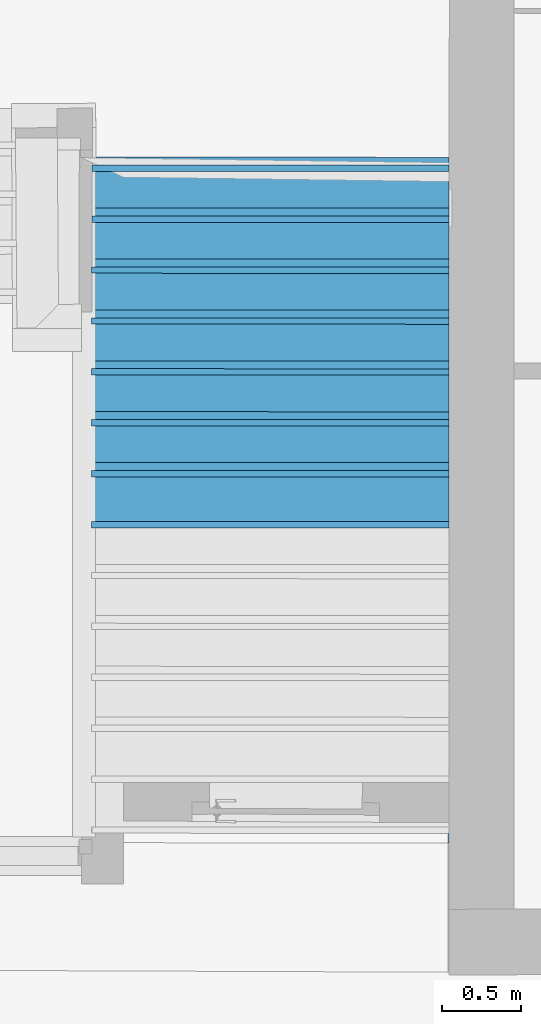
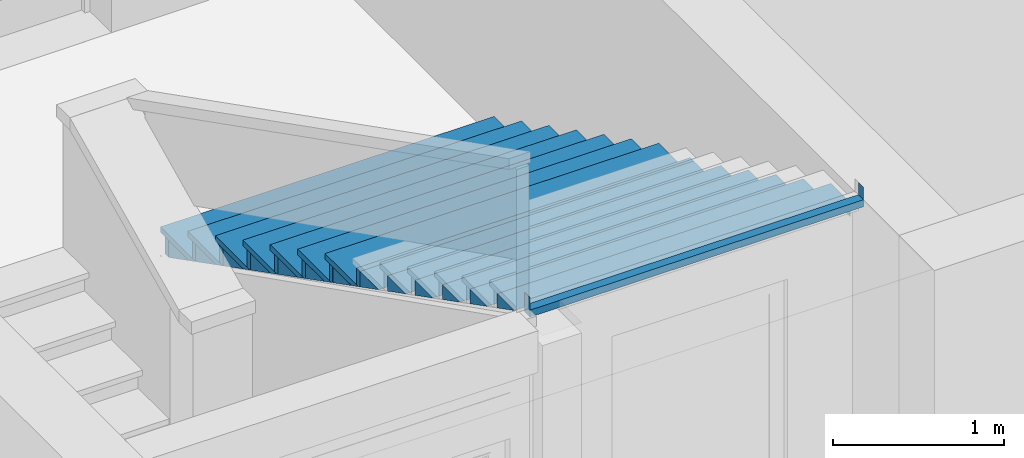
# One storey, part 136 of 196: 16 building element parts, 1 element without a shape of its own.
"""IFC2X3 building model written with IfcOpenShell, lengths in metres."""

from ifc_helpers import new_model, entity, si_unit, converted_unit, derived_unit, money_unit, direction, frame, origin_with_axes, place, context, subcontext, project, spatial, faceted_brep, material, element, aggregate, save


model = new_model("IFC2X3")

# Units and contexts
model_context = context("Model", 3, precision=1e-05, world=origin_with_axes(), true_north=direction((0.0, 1.0)))
body_context = subcontext(model_context, "Body", "Model", "MODEL_VIEW")
ifc_project = project(units=[si_unit("LENGTHUNIT", "METRE"), si_unit("AREAUNIT", "SQUARE_METRE"), si_unit("VOLUMEUNIT", "CUBIC_METRE"), converted_unit("PLANEANGLEUNIT", "DEGREE", entity("IfcPlaneAngleMeasure", 0.0174532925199), si_unit("PLANEANGLEUNIT", "RADIAN"), dimensions=[0, 0, 0, 0, 0, 0, 0]), money_unit("EUR"), converted_unit("TIMEUNIT", "Year", entity("IfcTimeMeasure", 31556926.0), si_unit("TIMEUNIT", "SECOND"), dimensions=[0, 0, 1, 0, 0, 0, 0]), si_unit("MASSUNIT", "GRAM", prefix="KILO"), si_unit("THERMODYNAMICTEMPERATUREUNIT", "DEGREE_CELSIUS"), si_unit("LUMINOUSINTENSITYUNIT", "LUMEN"), si_unit("ENERGYUNIT", "JOULE", prefix="MEGA"), derived_unit("THERMALCONDUCTANCEUNIT", [(si_unit("POWERUNIT", "WATT"), 1), (si_unit("LENGTHUNIT", "METRE"), -1), (si_unit("THERMODYNAMICTEMPERATUREUNIT", "KELVIN"), -1)]), derived_unit("SPECIFICHEATCAPACITYUNIT", [(si_unit("ENERGYUNIT", "JOULE"), 1), (si_unit("MASSUNIT", "GRAM", prefix="KILO"), -1), (si_unit("THERMODYNAMICTEMPERATUREUNIT", "KELVIN"), -1)]), derived_unit("MASSDENSITYUNIT", [(si_unit("MASSUNIT", "GRAM", prefix="KILO"), 1), (si_unit("VOLUMEUNIT", "CUBIC_METRE"), -1)])], contexts=[model_context])

# Site, building, storey
site_placement = place(None, origin_with_axes())
site = spatial("IfcSite", under=ifc_project, at=site_placement, Name="Gelände", CompositionType="ELEMENT")
building_placement = place(site_placement, origin_with_axes())
building = spatial("IfcBuilding", under=site, at=building_placement, Name="Gebäude", CompositionType="ELEMENT")
storey_placement = place(building_placement, frame((0.0, 0.0, -3.0), z_axis=(0.0, 0.0, 1.0), x_axis=(1.0, 0.0, 0.0)))
storey = spatial("IfcBuildingStorey", under=building, at=storey_placement, Name="KELLERGESCHOSS", CompositionType="ELEMENT", Elevation=-3.0)

# Stair, building element parts
stair_placement = place(storey_placement, frame((-4.87307705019, 23.804592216, 0.6), z_axis=(0.0, 0.0, 1.0), x_axis=(-0.999999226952, 0.00124342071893, 0.0)))
stair = element("IfcStair", 1, at=stair_placement, inside=storey, Name="Treppe-003", ShapeType="NOTDEFINED")
ifc_material = material(Name="05_ALLGEMEIN - TRAGENDE BAUTEILE")
building_element_part_1_placement = place(stair_placement, origin_with_axes())
building_element_part_1 = element("IfcBuildingElementPart", 2, at=building_element_part_1_placement, material=ifc_material, Name="05_ALLGEMEIN - TRAGENDE BAUTEILE", context=body_context, shape_type="Brep", body=[
    faceted_brep([(2.24908700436, 3.66726069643, 2.19), (-0.00267677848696, 3.66530980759, 2.19), (-0.00267677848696, 3.66530980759, 2.28), (-0.00294924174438, 3.66530957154, 2.28), (-0.00294924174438, 3.66530957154, 2.14), (2.25204991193, 3.66726326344, 2.14), (2.25204991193, 3.66726326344, 2.28), (2.24908700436, 3.66726069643, 2.28), (2.24905300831, 3.70645155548, 2.19), (2.24907701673, 3.7064515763, 2.19), (2.24905894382, 3.72726069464, 2.19), (-0.00272492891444, 3.7253097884, 2.19), (-0.00272492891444, 3.7253097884, 2.28), (-0.00300122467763, 3.72530954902, 2.28), (-0.00300122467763, 3.72530954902, 2.14), (2.251997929, 3.72726324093, 2.14), (2.251997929, 3.72726324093, 2.28), (2.24905300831, 3.70645155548, 2.28), (2.24905894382, 3.72726069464, 2.28), (2.24907701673, 3.7064515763, 2.28)], [[[0, 1, 2, 3, 4, 5, 6, 7]], [[1, 0, 8, 9, 10, 11]], [[12, 2, 1, 11]], [[2, 12, 13, 3]], [[13, 14, 4, 3]], [[14, 15, 5, 4]], [[6, 5, 15, 16]], [[17, 7, 6, 16, 18, 19]], [[0, 7, 17, 8]], [[17, 19, 9, 8]], [[19, 18, 10, 9]], [[10, 18, 16, 15, 14, 13, 12, 11]]]),
    faceted_brep([(2.25248234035, 3.22770759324, 1.91428592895), (2.2526553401, 3.02486921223, 1.81023216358), (0.00283874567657, 3.02292001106, 1.79839487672), (0.00265744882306, 3.24883301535, 1.91428571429), (2.25260647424, 3.02486917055, 1.91428571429), (0.00283874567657, 3.02292001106, 1.75142857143), (-0.00239268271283, 3.02291547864, 1.91428571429), (-0.00239268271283, 3.02291547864, 1.75142857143), (0.00265320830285, 3.25411710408, 1.85744089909), (0.00258876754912, 3.33441637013, 1.8981551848), (0.00252432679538, 3.41471563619, 1.93886947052), (0.00245988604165, 3.49501490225, 1.97958375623), (0.0024592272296, 3.49583584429, 1.98), (0.00239544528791, 3.5753141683, 1.98), (0.00239544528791, 3.5753141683, 2.07714285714), (0.00240267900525, 3.56630027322, 2.07714285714), (0.00258098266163, 3.34411707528, 1.96316536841), (0.00258098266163, 3.34411707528, 1.91428571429), (0.00291221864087, 2.93136575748, 1.75142857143), (0.00309650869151, 2.70172294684, 1.63362438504), (0.00309650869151, 2.70172294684, 1.58857142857), (0.00316698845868, 2.61389849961, 1.58857142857), (0.00335427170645, 2.38052588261, 1.46885389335), (0.00335427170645, 2.38052588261, 1.42571428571), (0.00342175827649, 2.29643124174, 1.42571428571), (0.0036120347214, 2.05932881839, 1.30408340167), (0.0036120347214, 2.05932881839, 1.26285714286), (0.00367652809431, 1.97896398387, 1.26285714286), (0.00386979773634, 1.73813175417, 1.13931290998), (0.00386979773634, 1.73813175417, 1.1), (0.00393129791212, 1.661496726, 1.1), (0.00412756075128, 1.41693468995, 0.974542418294), (0.00412756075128, 1.41693468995, 0.937142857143), (0.00418606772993, 1.34402946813, 0.937142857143), (0.00438532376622, 1.09573762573, 0.809771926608), (0.00438532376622, 1.09573762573, 0.774285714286), (0.00444083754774, 1.02656221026, 0.774285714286), (0.00464308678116, 0.774540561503, 0.645001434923), (0.00464308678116, 0.774540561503, 0.611428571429), (0.00469560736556, 0.709094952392, 0.611428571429), (0.0049008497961, 0.453343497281, 0.480230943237), (0.0049008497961, 0.453343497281, 0.448571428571), (0.00495037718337, 0.391627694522, 0.448571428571), (0.00515861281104, 0.132146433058, 0.315460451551), (0.00515861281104, 0.132146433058, 0.285714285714), (0.00520514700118, 0.0741604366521, 0.285714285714), (0.00541637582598, -0.189050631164, 0.150689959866), (0.00541637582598, -0.189050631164, 0.122857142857), (0.00545991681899, -0.243306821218, 0.122857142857), (0.0056601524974, -0.492819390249, -0.00514000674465), (0.00562305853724, -0.446596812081, -0.00514000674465), (0.00562305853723, -0.446596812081, -0.0189389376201), (0.00561748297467, -0.439649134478, -0.0154162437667), (0.00555304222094, -0.359349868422, 0.0252980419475), (0.0054886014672, -0.279050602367, 0.0660123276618), (0.00542416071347, -0.198751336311, 0.106726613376), (0.00535971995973, -0.118452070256, 0.14744089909), (0.005295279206, -0.0381528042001, 0.188155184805), (0.00523083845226, 0.0421464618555, 0.228869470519), (0.00516639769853, 0.122445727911, 0.269583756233), (0.00510195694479, 0.202744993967, 0.310298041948), (0.00503751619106, 0.283044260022, 0.351012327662), (0.00497307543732, 0.363343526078, 0.391726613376), (0.00490863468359, 0.443642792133, 0.43244089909), (0.00484419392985, 0.523942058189, 0.473155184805), (0.00477975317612, 0.604241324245, 0.513869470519), (0.00471531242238, 0.6845405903, 0.554583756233), (0.00465087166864, 0.764839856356, 0.595298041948), (0.00458643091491, 0.845139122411, 0.636012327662), (0.00452199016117, 0.925438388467, 0.676726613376), (0.00445754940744, 1.00573765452, 0.71744089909), (0.0043931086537, 1.08603692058, 0.758155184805), (0.00432866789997, 1.16633618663, 0.798869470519), (0.00426422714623, 1.24663545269, 0.839583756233), (0.0041997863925, 1.32693471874, 0.880298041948), (0.00413534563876, 1.4072339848, 0.921012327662), (0.00407090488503, 1.48753325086, 0.961726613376), (0.00400646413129, 1.56783251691, 1.00244089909), (0.00394202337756, 1.64813178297, 1.0431551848), (0.00387758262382, 1.72843104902, 1.08386947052), (0.00381314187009, 1.80873031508, 1.12458375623), (0.00374870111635, 1.88902958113, 1.16529804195), (0.00368426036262, 1.96932884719, 1.20601232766), (0.00361981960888, 2.04962811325, 1.24672661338), (0.00355537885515, 2.1299273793, 1.28744089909), (0.00349093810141, 2.21022664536, 1.3281551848), (0.00342649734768, 2.29052591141, 1.36886947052), (0.00336205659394, 2.37082517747, 1.40958375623), (0.0032976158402, 2.45112444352, 1.45029804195), (0.00323317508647, 2.53142370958, 1.49101232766), (0.00316873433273, 2.61172297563, 1.53172661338), (0.003104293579, 2.69202224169, 1.57244089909), (0.00303985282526, 2.77232150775, 1.6131551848), (0.00297541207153, 2.8526207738, 1.65386947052), (0.00291097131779, 2.93292003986, 1.69458375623), (0.00284653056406, 3.01321930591, 1.73529804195), (0.00278208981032, 3.09351857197, 1.77601232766), (0.00271764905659, 3.17381783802, 1.81672661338), (-0.00267096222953, 3.34411252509, 1.91428571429), (-0.00217556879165, 2.7723169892, 1.6131551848), (-0.00210599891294, 2.69201772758, 1.57244089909), (-0.00203644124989, 2.61171846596, 1.53172661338), (-0.00196687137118, 2.53141920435, 1.49101232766), (-0.00189730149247, 2.45111994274, 1.45029804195), (-0.00182773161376, 2.37082068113, 1.40958375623), (-0.00175816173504, 2.29052141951, 1.36886947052), (-0.00168857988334, 2.21022215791, 1.3281551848), (-0.00161901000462, 2.1299228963, 1.28744089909), (-0.00154944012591, 2.04962363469, 1.24672661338), (-0.00147988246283, 1.96932437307, 1.20601232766), (-0.00141031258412, 1.88902511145, 1.16529804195), (-0.00134074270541, 1.80872584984, 1.12458375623), (-0.00127117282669, 1.72842658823, 1.08386947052), (-0.00120160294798, 1.64812732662, 1.0431551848), (-0.00113202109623, 1.56782806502, 1.00244089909), (-0.00106245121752, 1.48752880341, 0.961726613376), (-0.000992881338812, 1.40722954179, 0.921012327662), (-0.00092332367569, 1.32693028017, 0.880298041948), (-0.000853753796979, 1.24663101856, 0.839583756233), (-0.000784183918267, 1.16633175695, 0.798869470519), (-0.000714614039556, 1.08603249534, 0.758155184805), (-0.000645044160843, 1.00573323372, 0.71744089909), (-0.000575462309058, 0.925433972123, 0.676726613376), (-0.000505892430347, 0.845134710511, 0.636012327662), (-0.000436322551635, 0.7648354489, 0.595298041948), (-0.000366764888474, 0.684536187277, 0.554583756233), (-0.000297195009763, 0.604236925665, 0.513869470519), (-0.000227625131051, 0.523937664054, 0.473155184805), (-0.000158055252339, 0.443638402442, 0.43244089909), (-8.84853736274e-05, 0.36333914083, 0.391726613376), (-1.8903521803e-05, 0.283039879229, 0.351012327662), (5.06663569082e-05, 0.202740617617, 0.310298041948), (0.000120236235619, 0.122441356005, 0.269583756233), (0.000189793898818, 0.0421420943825, 0.228869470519), (0.000259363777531, -0.0381571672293, 0.188155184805), (0.000328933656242, -0.118456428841, 0.14744089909), (0.000398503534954, -0.198755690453, 0.106726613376), (0.000468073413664, -0.279054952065, 0.0660123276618), (0.000537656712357, -0.359354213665, 0.0252980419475), (0.000607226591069, -0.439653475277, -0.0154162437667), (0.000623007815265, -0.446535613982, -0.0189057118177), (0.000623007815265, -0.446535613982, -0.00514000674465), (0.000668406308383, -0.510252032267, -0.00514000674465), (0.00066838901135, -0.510252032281, 0.122857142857), (0.000390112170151, -0.189054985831, 0.122857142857), (0.000390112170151, -0.189054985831, 0.285714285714), (0.000111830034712, 0.132142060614, 0.285714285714), (0.000111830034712, 0.132142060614, 0.448571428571), (-0.000166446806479, 0.453339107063, 0.448571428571), (-0.000166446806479, 0.453339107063, 0.611428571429), (-0.000444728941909, 0.774536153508, 0.611428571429), (-0.000444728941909, 0.774536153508, 0.774285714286), (-0.000723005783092, 1.09573319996, 0.774285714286), (-0.000723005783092, 1.09573319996, 0.937142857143), (-0.00100128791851, 1.4169302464, 0.937142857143), (-0.00100128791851, 1.4169302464, 1.1), (-0.00127956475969, 1.73812729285, 1.1), (-0.00127956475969, 1.73812729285, 1.26285714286), (-0.0015578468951, 2.0593243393, 1.26285714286), (-0.0015578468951, 2.0593243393, 1.42571428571), (-0.00183612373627, 2.38052138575, 1.42571428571), (-0.00183612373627, 2.38052138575, 1.58857142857), (-0.00211440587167, 2.70171843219, 1.58857142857), (-0.00211440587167, 2.70171843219, 1.75142857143), (-0.00267096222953, 3.34411252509, 2.07714285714), (-0.00287126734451, 3.57530960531, 2.07714285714), (-0.00287126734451, 3.57530960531, 1.98), (-0.00280240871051, 3.4958312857, 1.98), (-0.0028016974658, 3.4950103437, 1.97958375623), (-0.00273212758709, 3.41471108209, 1.93886947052), (-0.00266255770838, 3.33441182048, 1.8981551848), (-0.00259300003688, 3.25411255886, 1.85744089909), (-0.00252343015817, 3.17381329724, 1.81672661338), (-0.00245386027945, 3.09351403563, 1.77601232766), (-0.00238429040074, 3.01321477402, 1.73529804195), (-0.00231472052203, 2.93291551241, 1.69458375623), (-0.00224513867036, 2.85261625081, 1.65386947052), (2.25288475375, 2.7036721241, 1.75142857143), (2.25275310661, 2.91024015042, 1.75142876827), (2.25232819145, 3.346066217, 2.07714285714), (2.25221157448, 3.54517457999, 2.07714285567), (2.25238139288, 3.34606626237, 1.97500257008), (2.25292928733, 2.70367216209, 1.64546175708), (2.25316303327, 2.38247507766, 1.58857142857), (2.25302387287, 2.59277270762, 1.5885716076), (2.25320323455, 2.38247511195, 1.48069135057), (2.25344131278, 2.06127803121, 1.42571428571), (2.25329463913, 2.27530526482, 1.42571444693), (2.25347718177, 2.0612780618, 1.31592094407), (2.2537195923, 1.74008098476, 1.26285714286), (2.25356540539, 1.95783782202, 1.26285728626), (2.25375112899, 1.74008101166, 1.15115053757), (2.25399787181, 1.41888393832, 1.1), (2.25383617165, 1.64037037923, 1.10000012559), (2.25402507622, 1.41888396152, 0.986380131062), (2.25427615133, 1.09768689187, 0.937142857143), (2.25410693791, 1.32290293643, 0.937142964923), (2.25429902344, 1.09768691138, 0.821609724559), (2.25455443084, 0.776489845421, 0.774285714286), (2.25437770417, 1.00543549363, 0.774285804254), (2.25457297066, 0.776489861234, 0.656839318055), (2.25483271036, 0.455292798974, 0.611428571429), (2.25464847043, 0.687968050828, 0.611428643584), (2.25484691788, 0.455292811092, 0.492068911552), (2.25511098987, 0.134095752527, 0.448571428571), (2.25491923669, 0.370500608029, 0.448571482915), (2.25512086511, 0.13409576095, 0.327298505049), (2.25538926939, -0.18710129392, 0.285714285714), (2.25519000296, 0.0530331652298, 0.285714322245), (2.25539481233, -0.187101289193, 0.162528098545), (2.2556675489, -0.508298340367, 0.122857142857), (2.25546076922, -0.264434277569, 0.122857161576), (2.25293136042, -0.50830071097, -0.00225671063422), (2.25293191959, -0.507574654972, -0.00188424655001), (1.6560773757, -0.508316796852, -0.00514000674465), (2.25566875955, -0.508298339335, -0.00224230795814), (0.327255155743, -0.509969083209, -0.00514000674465), (0.327255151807, -0.509969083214, 0.0), (2.25293135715, -0.508300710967, 0.0), (2.25293191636, -0.507574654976, 0.0)], [[[0, 1, 2, 3]], [[0, 4, 1]], [[5, 2, 1, 4, 6, 7]], [[8, 9, 10, 11, 12, 13, 14, 15, 16, 17, 3, 2, 5, 18, 19, 20, 21, 22, 23, 24, 25, 26, 27, 28, 29, 30, 31, 32, 33, 34, 35, 36, 37, 38, 39, 40, 41, 42, 43, 44, 45, 46, 47, 48, 49, 50, 51, 52, 53, 54, 55, 56, 57, 58, 59, 60, 61, 62, 63, 64, 65, 66, 67, 68, 69, 70, 71, 72, 73, 74, 75, 76, 77, 78, 79, 80, 81, 82, 83, 84, 85, 86, 87, 88, 89, 90, 91, 92, 93, 94, 95, 96, 97]], [[4, 0, 3, 17, 98, 6]], [[99, 100, 101, 102, 103, 104, 105, 106, 107, 108, 109, 110, 111, 112, 113, 114, 115, 116, 117, 118, 119, 120, 121, 122, 123, 124, 125, 126, 127, 128, 129, 130, 131, 132, 133, 134, 135, 136, 137, 138, 139, 140, 141, 142, 143, 144, 145, 146, 147, 148, 149, 150, 151, 152, 153, 154, 155, 156, 157, 158, 159, 160, 161, 162, 163, 7, 6, 98, 164, 165, 166, 167, 168, 169, 170, 171, 172, 173, 174, 175, 176]], [[177, 178, 18, 5, 7, 163]], [[9, 8, 171, 170]], [[10, 9, 170, 169]], [[11, 10, 169, 168]], [[12, 11, 168, 167]], [[13, 12, 167, 166]], [[14, 13, 166, 165]], [[179, 180, 15, 14, 165, 164]], [[180, 181, 16, 15]], [[16, 181, 179, 164, 98, 17]], [[178, 182, 19, 18]], [[182, 177, 163, 162, 20, 19]], [[183, 184, 21, 20, 162, 161]], [[184, 185, 22, 21]], [[185, 183, 161, 160, 23, 22]], [[186, 187, 24, 23, 160, 159]], [[187, 188, 25, 24]], [[188, 186, 159, 158, 26, 25]], [[189, 190, 27, 26, 158, 157]], [[190, 191, 28, 27]], [[191, 189, 157, 156, 29, 28]], [[192, 193, 30, 29, 156, 155]], [[193, 194, 31, 30]], [[194, 192, 155, 154, 32, 31]], [[195, 196, 33, 32, 154, 153]], [[196, 197, 34, 33]], [[197, 195, 153, 152, 35, 34]], [[198, 199, 36, 35, 152, 151]], [[199, 200, 37, 36]], [[200, 198, 151, 150, 38, 37]], [[201, 202, 39, 38, 150, 149]], [[202, 203, 40, 39]], [[203, 201, 149, 148, 41, 40]], [[204, 205, 42, 41, 148, 147]], [[205, 206, 43, 42]], [[206, 204, 147, 146, 44, 43]], [[207, 208, 45, 44, 146, 145]], [[208, 209, 46, 45]], [[209, 207, 145, 144, 47, 46]], [[210, 211, 48, 47, 144, 143]], [[212, 213, 214, 49, 48, 211, 215]], [[214, 216, 142, 141, 50, 49]], [[51, 50, 141, 140]], [[52, 51, 140, 139]], [[53, 52, 139, 138]], [[54, 53, 138, 137]], [[55, 54, 137, 136]], [[56, 55, 136, 135]], [[57, 56, 135, 134]], [[58, 57, 134, 133]], [[59, 58, 133, 132]], [[60, 59, 132, 131]], [[61, 60, 131, 130]], [[62, 61, 130, 129]], [[63, 62, 129, 128]], [[64, 63, 128, 127]], [[65, 64, 127, 126]], [[66, 65, 126, 125]], [[67, 66, 125, 124]], [[68, 67, 124, 123]], [[69, 68, 123, 122]], [[70, 69, 122, 121]], [[71, 70, 121, 120]], [[72, 71, 120, 119]], [[73, 72, 119, 118]], [[74, 73, 118, 117]], [[75, 74, 117, 116]], [[76, 75, 116, 115]], [[77, 76, 115, 114]], [[78, 77, 114, 113]], [[79, 78, 113, 112]], [[111, 80, 79, 112]], [[81, 80, 111, 110]], [[82, 81, 110, 109]], [[83, 82, 109, 108]], [[84, 83, 108, 107]], [[85, 84, 107, 106]], [[85, 106, 105, 86]], [[104, 87, 86, 105]], [[88, 87, 104, 103]], [[88, 103, 102, 89]], [[90, 89, 102, 101]], [[91, 90, 101, 100]], [[91, 100, 99, 92]], [[93, 92, 99, 176]], [[94, 93, 176, 175]], [[95, 94, 175, 174]], [[95, 174, 173, 96]], [[97, 96, 173, 172]], [[8, 97, 172, 171]], [[212, 215, 210, 143, 142, 216, 217, 218]], [[177, 182, 178]], [[181, 180, 179]], [[184, 183, 185]], [[186, 188, 187]], [[190, 189, 191]], [[192, 194, 193]], [[196, 195, 197]], [[198, 200, 199]], [[202, 201, 203]], [[206, 205, 204]], [[208, 207, 209]], [[215, 211, 210]], [[213, 212, 218, 219]], [[214, 213, 219, 217, 216]], [[219, 218, 217]]]),
    faceted_brep([(2.25286204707, -0.598300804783, -0.048426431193), (2.25286204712, -0.598300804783, -0.0435359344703), (2.25286743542, -0.591304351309, -0.0400000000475), (2.25287469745, -0.581874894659, -0.0399999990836), (2.25574552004, -0.598298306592, -0.0484112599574), (2.25574552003, -0.598298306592, -0.04), (2.25278715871, -0.598300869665, -0.04), (2.25278715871, -0.598300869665, -0.0435359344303), (2.25278108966, -0.591304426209, -0.0400000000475), (2.25573153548, -0.581901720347, -0.0399999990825)], [[[0, 1, 2, 3]], [[0, 4, 5, 6, 7, 1]], [[1, 7, 8, 2]], [[5, 9, 3, 2, 8, 6]], [[9, 4, 0, 3]], [[4, 9, 5]], [[8, 7, 6]]]),
])
building_element_part_2_placement = place(stair_placement, origin_with_axes())
building_element_part_2 = element("IfcBuildingElementPart", 3, at=building_element_part_2_placement, material=ifc_material, Name="05_ALLGEMEIN - TRAGENDE BAUTEILE", context=body_context, shape_type="Brep", body=[
    faceted_brep([(0.000668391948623, -0.510252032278, 0.122857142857), (0.000703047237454, -0.550252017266, 0.122857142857), (2.25570220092, -0.548298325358, 0.122857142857), (2.25566754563, -0.50829834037, 0.122857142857), (0.000668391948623, -0.510252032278, 0.0), (0.000703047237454, -0.550252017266, 0.0), (2.25570220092, -0.548298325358, 0.0), (2.25566754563, -0.50829834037, 0.0)], [[[0, 1, 2, 3]], [[4, 5, 1, 0]], [[1, 5, 6, 2]], [[7, 3, 2, 6]], [[4, 0, 3, 7]], [[5, 4, 7, 6]]]),
])
building_element_part_3_placement = place(stair_placement, origin_with_axes())
building_element_part_3 = element("IfcBuildingElementPart", 4, at=building_element_part_3_placement, material=ifc_material, Name="05_ALLGEMEIN - TRAGENDE BAUTEILE", context=body_context, shape_type="Brep", body=[
    faceted_brep([(0.000424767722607, -0.229054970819, 0.285714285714), (2.2554239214, -0.227101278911, 0.285714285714), (2.25538926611, -0.187101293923, 0.285714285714), (0.000390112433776, -0.189054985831, 0.285714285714), (0.000424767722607, -0.229054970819, 0.162857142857), (2.2554239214, -0.227101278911, 0.162857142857), (2.25538926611, -0.187101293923, 0.162857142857), (0.000390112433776, -0.189054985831, 0.162857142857)], [[[0, 1, 2, 3]], [[4, 5, 1, 0]], [[2, 1, 5, 6]], [[3, 2, 6, 7]], [[4, 0, 3, 7]], [[7, 6, 5, 4]]]),
])
building_element_part_4_placement = place(stair_placement, origin_with_axes())
building_element_part_4 = element("IfcBuildingElementPart", 5, at=building_element_part_4_placement, material=ifc_material, Name="05_ALLGEMEIN - TRAGENDE BAUTEILE", context=body_context, shape_type="Brep", body=[
    faceted_brep([(2.25512086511, 0.134095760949, 0.327298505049), (1.9540212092, 0.133834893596, 0.325714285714), (0.00011183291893, 0.132142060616, 0.325714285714), (0.00011183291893, 0.132142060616, 0.448571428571), (2.2551109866, 0.134095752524, 0.448571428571), (2.25512349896, 0.131007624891, 0.325714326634), (2.25514564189, 0.0940957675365, 0.325714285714), (0.00014648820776, 0.0921420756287, 0.325714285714), (0.00014648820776, 0.0921420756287, 0.448571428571), (2.25514564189, 0.0940957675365, 0.448571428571)], [[[0, 1, 2, 3, 4]], [[5, 1, 0]], [[1, 5, 6, 7, 2]], [[3, 2, 7, 8]], [[4, 3, 8, 9]], [[5, 0, 4, 9, 6]], [[9, 8, 7, 6]]]),
])
building_element_part_5_placement = place(stair_placement, origin_with_axes())
building_element_part_5 = element("IfcBuildingElementPart", 6, at=building_element_part_5_placement, material=ifc_material, Name="05_ALLGEMEIN - TRAGENDE BAUTEILE", context=body_context, shape_type="Brep", body=[
    faceted_brep([(2.25483270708, 0.455292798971, 0.492068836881), (1.59010884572, 0.45471689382, 0.488571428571), (-0.000166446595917, 0.453339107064, 0.488571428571), (-0.000166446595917, 0.453339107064, 0.611428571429), (2.25483270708, 0.455292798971, 0.611428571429), (2.25483861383, 0.448475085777, 0.488571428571), (2.25486736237, 0.415292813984, 0.488571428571), (-0.000131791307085, 0.413339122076, 0.488571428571), (-0.000131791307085, 0.413339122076, 0.611428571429), (2.25486736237, 0.415292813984, 0.611428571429)], [[[0, 1, 2, 3, 4]], [[5, 1, 0]], [[1, 5, 6, 7, 2]], [[7, 8, 3, 2]], [[8, 9, 4, 3]], [[5, 0, 4, 9, 6]], [[7, 6, 9, 8]]]),
])
building_element_part_6_placement = place(stair_placement, origin_with_axes())
building_element_part_6 = element("IfcBuildingElementPart", 7, at=building_element_part_6_placement, material=ifc_material, Name="05_ALLGEMEIN - TRAGENDE BAUTEILE", context=body_context, shape_type="Brep", body=[
    faceted_brep([(2.25455442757, 0.776489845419, 0.65683922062), (1.22619648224, 0.775598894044, 0.651428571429), (-0.000444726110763, 0.774536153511, 0.651428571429), (-0.000444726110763, 0.774536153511, 0.774285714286), (2.25455442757, 0.776489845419, 0.774285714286), (2.25456356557, 0.765942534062, 0.651428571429), (2.25458908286, 0.736489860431, 0.651428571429), (-0.000410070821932, 0.734536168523, 0.651428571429), (-0.000410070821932, 0.734536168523, 0.774285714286), (2.25458908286, 0.736489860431, 0.774285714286)], [[[0, 1, 2, 3, 4]], [[5, 1, 0]], [[1, 5, 6, 7, 2]], [[7, 8, 3, 2]], [[8, 9, 4, 3]], [[5, 0, 4, 9, 6]], [[7, 6, 9, 8]]]),
])
building_element_part_7_placement = place(stair_placement, origin_with_axes())
building_element_part_7 = element("IfcBuildingElementPart", 8, at=building_element_part_7_placement, material=ifc_material, Name="05_ALLGEMEIN - TRAGENDE BAUTEILE", context=body_context, shape_type="Brep", body=[
    faceted_brep([(2.25427614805, 1.09768689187, 0.821609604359), (0.862284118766, 1.09648089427, 0.814285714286), (-0.000723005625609, 1.09573319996, 0.814285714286), (-0.000723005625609, 1.09573319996, 0.937142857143), (2.25427614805, 1.09768689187, 0.937142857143), (2.25428851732, 1.08340998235, 0.814285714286), (2.25431080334, 1.05768690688, 0.814285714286), (-0.000688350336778, 1.05573321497, 0.814285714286), (-0.000688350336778, 1.05573321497, 0.937142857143), (2.25431080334, 1.05768690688, 0.937142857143)], [[[0, 1, 2, 3, 4]], [[5, 1, 0]], [[1, 5, 6, 7, 2]], [[7, 8, 3, 2]], [[8, 9, 4, 3]], [[5, 0, 4, 9, 6]], [[7, 6, 9, 8]]]),
])
building_element_part_8_placement = place(stair_placement, origin_with_axes())
building_element_part_8 = element("IfcBuildingElementPart", 9, at=building_element_part_8_placement, material=ifc_material, Name="05_ALLGEMEIN - TRAGENDE BAUTEILE", context=body_context, shape_type="Brep", body=[
    faceted_brep([(2.25399786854, 1.41888393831, 0.986379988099), (0.498371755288, 1.41736289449, 0.977142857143), (-0.00100128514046, 1.41693024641, 0.977142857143), (-0.00100128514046, 1.41693024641, 1.1), (2.25399786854, 1.41888393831, 1.1), (2.25401346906, 1.40087743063, 0.977142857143), (2.25403252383, 1.37888395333, 0.977142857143), (-0.000966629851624, 1.37693026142, 0.977142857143), (-0.000966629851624, 1.37693026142, 1.1), (2.25403252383, 1.37888395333, 1.1)], [[[0, 1, 2, 3, 4]], [[5, 1, 0]], [[1, 5, 6, 7, 2]], [[7, 8, 3, 2]], [[8, 9, 4, 3]], [[5, 0, 4, 9, 6]], [[7, 6, 9, 8]]]),
])
building_element_part_9_placement = place(stair_placement, origin_with_axes())
building_element_part_9 = element("IfcBuildingElementPart", 10, at=building_element_part_9_placement, material=ifc_material, Name="05_ALLGEMEIN - TRAGENDE BAUTEILE", context=body_context, shape_type="Brep", body=[
    faceted_brep([(2.25371958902, 1.74008098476, 1.15115037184), (0.134459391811, 1.73824489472, 1.14), (-0.0012795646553, 1.73812729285, 1.14), (-0.0012795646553, 1.73812729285, 1.26285714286), (2.25371958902, 1.74008098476, 1.26285714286), (2.25373842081, 1.71834487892, 1.14), (2.25375424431, 1.70008099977, 1.14), (-0.00124490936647, 1.69812730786, 1.14), (-0.00124490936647, 1.69812730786, 1.26285714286), (2.25375424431, 1.70008099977, 1.26285714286)], [[[0, 1, 2, 3, 4]], [[5, 1, 0]], [[1, 5, 6, 7, 2]], [[7, 8, 3, 2]], [[8, 9, 4, 3]], [[5, 0, 4, 9, 6]], [[7, 6, 9, 8]]]),
])
building_element_part_10_placement = place(stair_placement, origin_with_axes())
building_element_part_10 = element("IfcBuildingElementPart", 11, at=building_element_part_10_placement, material=ifc_material, Name="05_ALLGEMEIN - TRAGENDE BAUTEILE", context=body_context, shape_type="Brep", body=[
    faceted_brep([(0.00545991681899, -0.243306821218, 0.122857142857), (2.25546076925, -0.26443431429, 0.122857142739), (2.25574552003, -0.598298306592, 0.122857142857), (0.000746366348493, -0.6002519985, 0.122857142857), (0.000390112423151, -0.189054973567, 0.122857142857), (0.00541637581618, -0.189050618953, 0.122857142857), (0.00541637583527, -0.189050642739, 0.150689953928), (2.25539481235, -0.187101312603, 0.162528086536), (2.25538926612, -0.187101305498, 0.162857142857), (2.25574552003, -0.598298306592, 0.162857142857), (0.000746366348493, -0.6002519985, 0.162857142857), (0.000390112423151, -0.189054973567, 0.162857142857)], [[[0, 1, 2, 3, 4, 5]], [[1, 0, 6, 7]], [[1, 7, 8, 9, 2]], [[2, 9, 10, 3]], [[3, 10, 11, 4]], [[6, 5, 4, 11, 8, 7]], [[0, 5, 6]], [[9, 8, 11, 10]]]),
])
building_element_part_11_placement = place(stair_placement, origin_with_axes())
building_element_part_11 = element("IfcBuildingElementPart", 12, at=building_element_part_11_placement, material=ifc_material, Name="05_ALLGEMEIN - TRAGENDE BAUTEILE", context=body_context, shape_type="Brep", body=[
    faceted_brep([(0.00520514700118, 0.0741604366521, 0.285714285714), (2.25519000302, 0.0530330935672, 0.285714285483), (2.25546724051, -0.277101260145, 0.285714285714), (0.000468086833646, -0.279054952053, 0.285714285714), (0.000111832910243, 0.132142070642, 0.285714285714), (0.00515861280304, 0.132146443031, 0.285714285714), (0.00515861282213, 0.132146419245, 0.315460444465), (1.95402224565, 0.133834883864, 0.325714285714), (2.25512349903, 0.13100754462, 0.325714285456), (2.25546724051, -0.277101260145, 0.325714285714), (0.000468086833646, -0.279054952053, 0.325714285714), (0.000111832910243, 0.132142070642, 0.325714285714)], [[[0, 1, 2, 3, 4, 5]], [[1, 0, 6, 7, 8]], [[1, 8, 9, 2]], [[2, 9, 10, 3]], [[3, 10, 11, 4]], [[6, 5, 4, 11, 7]], [[0, 5, 6]], [[8, 7, 11, 10, 9]]]),
])
building_element_part_12_placement = place(stair_placement, origin_with_axes())
building_element_part_12 = element("IfcBuildingElementPart", 13, at=building_element_part_12_placement, material=ifc_material, Name="05_ALLGEMEIN - TRAGENDE BAUTEILE", context=body_context, shape_type="Brep", body=[
    faceted_brep([(0.00495037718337, 0.391627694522, 0.448571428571), (2.25490616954, 0.370500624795, 0.448571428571), (2.255188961, 0.044095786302, 0.448571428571), (0.0001898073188, 0.0421420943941, 0.448571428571), (-0.000166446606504, 0.453339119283, 0.448571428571), (0.00490084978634, 0.453343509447, 0.448571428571), (0.00490084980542, 0.453343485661, 0.480230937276), (1.59010929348, 0.454716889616, 0.488571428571), (2.25483861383, 0.448475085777, 0.488571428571), (2.255188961, 0.044095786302, 0.488571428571), (0.0001898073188, 0.0421420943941, 0.488571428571), (-0.000166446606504, 0.453339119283, 0.488571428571)], [[[0, 1, 2, 3, 4, 5]], [[1, 0, 6, 7, 8]], [[1, 8, 9, 2]], [[10, 3, 2, 9]], [[11, 4, 3, 10]], [[6, 5, 4, 11, 7]], [[0, 5, 6]], [[8, 7, 11, 10, 9]]]),
])
building_element_part_13_placement = place(stair_placement, origin_with_axes())
building_element_part_13 = element("IfcBuildingElementPart", 14, at=building_element_part_13_placement, material=ifc_material, Name="05_ALLGEMEIN - TRAGENDE BAUTEILE", context=body_context, shape_type="Brep", body=[
    faceted_brep([(0.00469560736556, 0.709094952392, 0.611428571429), (2.25463112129, 0.68796807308, 0.611428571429), (2.25491068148, 0.365292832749, 0.611428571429), (-8.84721960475e-05, 0.363339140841, 0.611428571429), (-0.00044472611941, 0.774536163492, 0.611428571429), (0.00464308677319, 0.774540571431, 0.611428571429), (0.00464308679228, 0.774540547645, 0.645001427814), (1.2261967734, 0.77559889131, 0.651428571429), (2.25456356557, 0.765942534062, 0.651428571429), (2.25491068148, 0.365292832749, 0.651428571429), (-8.84721960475e-05, 0.363339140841, 0.651428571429), (-0.00044472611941, 0.774536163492, 0.651428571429)], [[[0, 1, 2, 3, 4, 5]], [[1, 0, 6, 7, 8]], [[1, 8, 9, 2]], [[10, 3, 2, 9]], [[11, 4, 3, 10]], [[6, 5, 4, 11, 7]], [[0, 5, 6]], [[8, 7, 11, 10, 9]]]),
])
building_element_part_14_placement = place(stair_placement, origin_with_axes())
building_element_part_14 = element("IfcBuildingElementPart", 15, at=building_element_part_14_placement, material=ifc_material, Name="05_ALLGEMEIN - TRAGENDE BAUTEILE", context=body_context, shape_type="Brep", body=[
    faceted_brep([(0.00444083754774, 1.02656221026, 0.774285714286), (2.25435607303, 1.00543552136, 0.774285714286), (2.25463240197, 0.686489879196, 0.774285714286), (-0.000366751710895, 0.684536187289, 0.774285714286), (-0.000723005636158, 1.09573321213, 0.774285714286), (0.00438532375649, 1.09573763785, 0.774285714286), (0.00438532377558, 1.09573761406, 0.809771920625), (0.862283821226, 1.09648089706, 0.814285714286), (2.25428851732, 1.08340998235, 0.814285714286), (2.25463240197, 0.686489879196, 0.814285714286), (-0.000366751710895, 0.684536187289, 0.814285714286), (-0.000723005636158, 1.09573321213, 0.814285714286)], [[[0, 1, 2, 3, 4, 5]], [[1, 0, 6, 7, 8]], [[1, 8, 9, 2]], [[10, 3, 2, 9]], [[11, 4, 3, 10]], [[6, 5, 4, 11, 7]], [[0, 5, 6]], [[8, 7, 11, 10, 9]]]),
])
building_element_part_15_placement = place(stair_placement, origin_with_axes())
building_element_part_15 = element("IfcBuildingElementPart", 16, at=building_element_part_15_placement, material=ifc_material, Name="05_ALLGEMEIN - TRAGENDE BAUTEILE", context=body_context, shape_type="Brep", body=[
    faceted_brep([(0.00418606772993, 1.34402946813, 0.937142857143), (2.25408102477, 1.32290296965, 0.937142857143), (2.25435412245, 1.00768692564, 0.937142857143), (-0.000645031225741, 1.00573323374, 0.937142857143), (-0.00100128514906, 1.41693025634, 0.937142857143), (0.00412756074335, 1.41693469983, 0.937142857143), (0.00412756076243, 1.41693467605, 0.974542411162), (0.498371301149, 1.41736289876, 0.977142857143), (2.25401346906, 1.40087743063, 0.977142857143), (2.25435412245, 1.00768692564, 0.977142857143), (-0.000645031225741, 1.00573323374, 0.977142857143), (-0.00100128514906, 1.41693025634, 0.977142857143)], [[[0, 1, 2, 3, 4, 5]], [[1, 0, 6, 7, 8]], [[1, 8, 9, 2]], [[10, 3, 2, 9]], [[11, 4, 3, 10]], [[6, 5, 4, 11, 7]], [[0, 5, 6]], [[8, 7, 11, 10, 9]]]),
])
building_element_part_16_placement = place(stair_placement, origin_with_axes())
building_element_part_16 = element("IfcBuildingElementPart", 17, at=building_element_part_16_placement, material=ifc_material, Name="05_ALLGEMEIN - TRAGENDE BAUTEILE", context=body_context, shape_type="Brep", body=[
    faceted_brep([(0.00393129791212, 1.661496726, 1.1), (2.25380597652, 1.64037041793, 1.1), (2.25407584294, 1.32888397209, 1.1), (-0.000923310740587, 1.32693028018, 1.1), (-0.00127956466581, 1.73812730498, 1.1), (0.00386979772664, 1.73813176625, 1.1), (0.00386979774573, 1.73813174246, 1.13931290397), (0.134458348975, 1.73824490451, 1.14), (2.25373842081, 1.71834487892, 1.14), (2.25407584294, 1.32888397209, 1.14), (-0.000923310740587, 1.32693028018, 1.14), (-0.00127956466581, 1.73812730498, 1.14)], [[[0, 1, 2, 3, 4, 5]], [[1, 0, 6, 7, 8]], [[1, 8, 9, 2]], [[10, 3, 2, 9]], [[11, 4, 3, 10]], [[6, 5, 4, 11, 7]], [[0, 5, 6]], [[8, 7, 11, 10, 9]]]),
])
aggregate(stair, [building_element_part_1, building_element_part_2, building_element_part_3, building_element_part_4, building_element_part_5, building_element_part_6, building_element_part_7, building_element_part_8, building_element_part_9, building_element_part_10, building_element_part_11, building_element_part_12, building_element_part_13, building_element_part_14, building_element_part_15, building_element_part_16])

save(model, "model.ifc")
